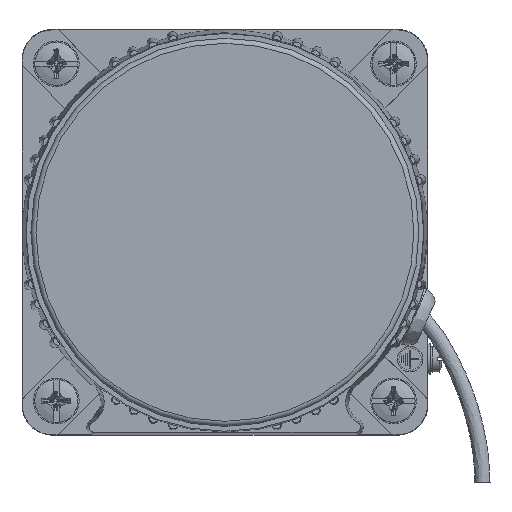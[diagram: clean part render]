
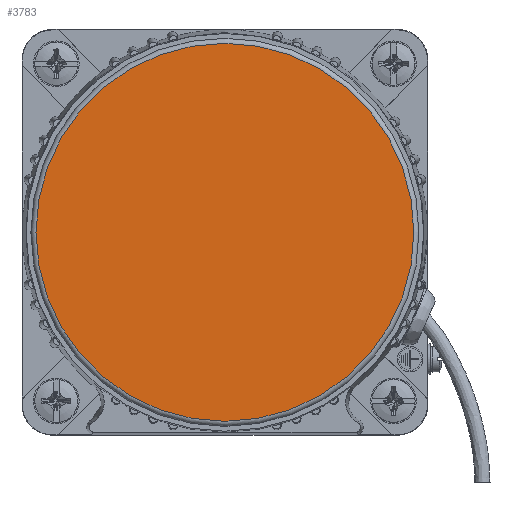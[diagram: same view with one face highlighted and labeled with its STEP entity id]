
A CAD part, left-side view. The second image highlights one B-rep face of the part: STEP entity #3783.
In plain terms, the highlighted planar face has unit normal (-1, 0, 0).
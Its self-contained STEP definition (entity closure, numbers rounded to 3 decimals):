
#2780=PLANE('',#14281);
#3085=FACE_OUTER_BOUND('',#5069,.T.);
#3783=ADVANCED_FACE('',(#3085),#2780,.F.);
#5069=EDGE_LOOP('',(#6199));
#6199=ORIENTED_EDGE('',*,*,#11643,.T.);
#10273=VERTEX_POINT('',#18759);
#11643=EDGE_CURVE('',#10273,#10273,#13773,.T.);
#13773=CIRCLE('',#14280,37.25);
#14280=AXIS2_PLACEMENT_3D('',#18758,#15475,#15476);
#14281=AXIS2_PLACEMENT_3D('',#18760,#15477,#15478);
#15475=DIRECTION('',(-1.,0.,0.));
#15476=DIRECTION('',(0.,0.,-1.));
#15477=DIRECTION('',(1.,0.,0.));
#15478=DIRECTION('',(0.,0.,-1.));
#18758=CARTESIAN_POINT('',(-86.,40.,40.));
#18759=CARTESIAN_POINT('',(-86.,40.,2.75));
#18760=CARTESIAN_POINT('',(-86.,40.,78.25));
